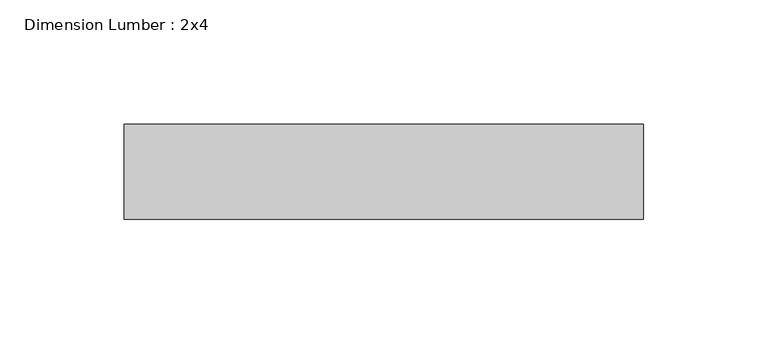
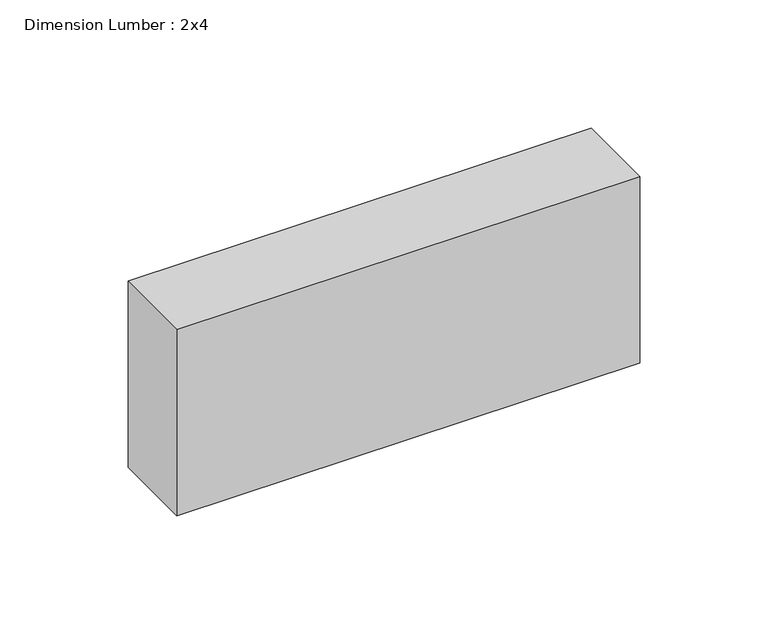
"""IFC4 building model written with IfcOpenShell, lengths in millimetres: beam geometry, Dimension Lumber : 2x4."""

from ifc_helpers import new_model, si_unit, frame, origin, place, context, project, spatial, polyline, outline, extrude, source, transform, mapped, element, save


def dimension_lumber_2x4_76ef2859(model_context):
    return source(origin(), model_context, "Body", "SweptSolid", [
        extrude(outline(polyline([(104.3779134, 19.05), (104.3779134, -19.05), (-104.3779134, -19.05), (-104.3779134, 19.05), (104.3779134, 19.05)])), frame((0.0, 0.0, -44.45), z_axis=(0.0, 0.0, 1.0), x_axis=(1.0, 0.0, 0.0)), (0.0, 0.0, 1.0), 88.9),
    ])


if __name__ == "__main__":
    model = new_model("IFC4")
    model_context = context("Model", 3, world=origin())
    ifc_project = project(units=[si_unit("LENGTHUNIT", "METRE", prefix="MILLI")], contexts=[model_context])
    site = spatial("IfcSite", under=ifc_project)
    building = spatial("IfcBuilding", under=site)
    placement = place(None, origin())
    dimension_lumber_2x4_shape = dimension_lumber_2x4_76ef2859(model_context)
    element("IfcBeam", 1, ObjectType="Dimension Lumber : 2x4", at=placement, inside=building, context=model_context, shape_type="MappedRepresentation", body=[
        mapped(dimension_lumber_2x4_shape, transform((0.0, 0.0, 0.0), x_axis=(1.0, 0.0, 0.0), y_axis=(0.0, 1.0, 0.0), z_axis=(0.0, 0.0, 1.0))),
    ])
    save(model, "model.ifc")
